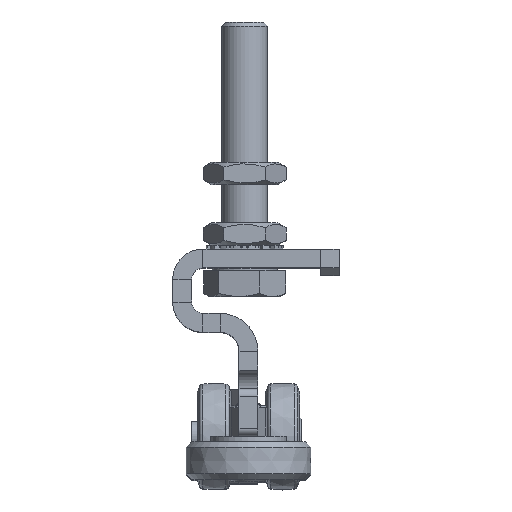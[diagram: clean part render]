
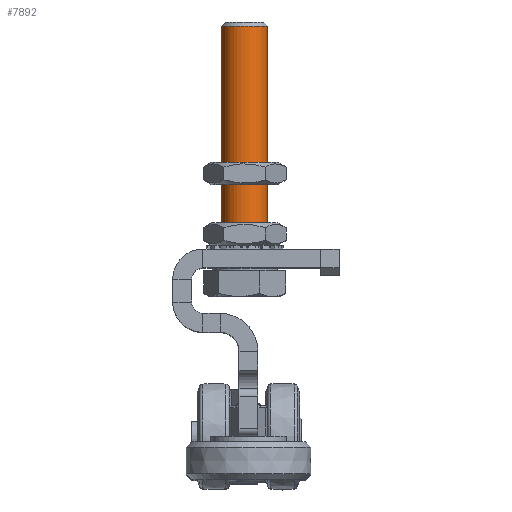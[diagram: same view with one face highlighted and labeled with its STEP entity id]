
A CAD part, top view. The second image highlights one B-rep face of the part: STEP entity #7892.
In plain terms, the highlighted cylindrical face has radius 6 mm (diameter 12 mm), a full revolution.
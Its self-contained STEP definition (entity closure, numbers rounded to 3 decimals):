
#246=FACE_BOUND('',#1841,.T.);
#442=CYLINDRICAL_SURFACE('',#8697,6.);
#842=CIRCLE('',#8695,6.);
#844=CIRCLE('',#8698,6.);
#1293=FACE_OUTER_BOUND('',#1840,.T.);
#1840=EDGE_LOOP('',(#6907));
#1841=EDGE_LOOP('',(#6908));
#3832=VERTEX_POINT('',#14508);
#3834=VERTEX_POINT('',#14513);
#4879=EDGE_CURVE('',#3832,#3832,#842,.T.);
#4881=EDGE_CURVE('',#3834,#3834,#844,.T.);
#6907=ORIENTED_EDGE('',*,*,#4881,.T.);
#6908=ORIENTED_EDGE('',*,*,#4879,.F.);
#7892=ADVANCED_FACE('',(#1293,#246),#442,.T.);
#8695=AXIS2_PLACEMENT_3D('',#14509,#10755,#10756);
#8697=AXIS2_PLACEMENT_3D('',#14512,#10759,#10760);
#8698=AXIS2_PLACEMENT_3D('',#14514,#10761,#10762);
#10755=DIRECTION('center_axis',(1.,0.,0.));
#10756=DIRECTION('ref_axis',(0.,-1.,0.));
#10759=DIRECTION('center_axis',(1.,0.,0.));
#10760=DIRECTION('ref_axis',(0.,1.,0.));
#10761=DIRECTION('center_axis',(1.,0.,0.));
#10762=DIRECTION('ref_axis',(0.,1.,0.));
#14508=CARTESIAN_POINT('',(63.926,6.,0.));
#14509=CARTESIAN_POINT('Origin',(63.926,0.,0.));
#14512=CARTESIAN_POINT('Origin',(35.125,0.,0.));
#14513=CARTESIAN_POINT('',(5.25,6.,0.));
#14514=CARTESIAN_POINT('Origin',(5.25,0.,0.));
